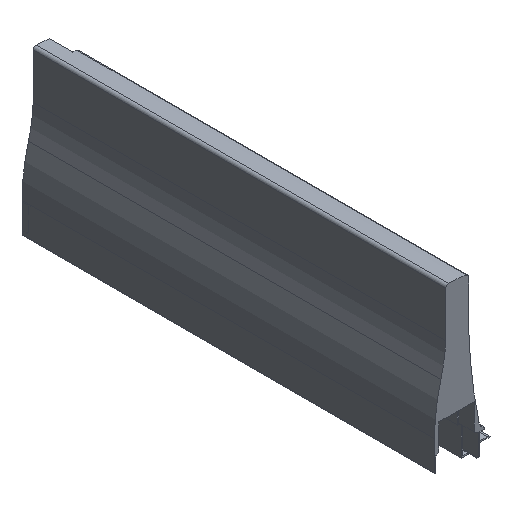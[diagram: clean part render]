
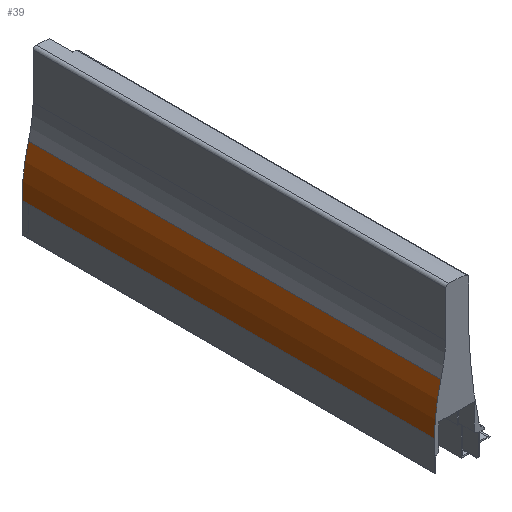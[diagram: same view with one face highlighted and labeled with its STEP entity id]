
A CAD part, isometric view. The second image highlights one B-rep face of the part: STEP entity #39.
In plain terms, the highlighted cylindrical face has radius 130.3 mm (diameter 260.6 mm), a partial arc.
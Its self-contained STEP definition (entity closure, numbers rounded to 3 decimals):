
#39 = ADVANCED_FACE ( 'NONE', ( #3536 ), #3540, .T. ) ;
#310 = CARTESIAN_POINT ( 'NONE',  ( 126.2, 290., -7.695 ) ) ;
#327 = DIRECTION ( 'NONE',  ( 0., -1., 0. ) ) ;
#328 = DIRECTION ( 'NONE',  ( 1., 0., 0. ) ) ;
#470 = CARTESIAN_POINT ( 'NONE',  ( 126.2, 0., -7.695 ) ) ;
#479 = DIRECTION ( 'NONE',  ( 0., -1., 0. ) ) ;
#480 = DIRECTION ( 'NONE',  ( 1., 0., 0. ) ) ;
#645 = CARTESIAN_POINT ( 'NONE',  ( -4.1, 0., -7.695 ) ) ;
#660 = CARTESIAN_POINT ( 'NONE',  ( 0.401, 0., 26.255 ) ) ;
#672 = CARTESIAN_POINT ( 'NONE',  ( 0.401, 290., 26.255 ) ) ;
#673 = CARTESIAN_POINT ( 'NONE',  ( -4.1, 290., -7.695 ) ) ;
#850 = EDGE_CURVE ( 'NONE', #1430, #1418, #3372, .T. ) ;
#866 = AXIS2_PLACEMENT_3D ( 'NONE', #1628, #1627, #1626 ) ;
#885 = EDGE_CURVE ( 'NONE', #1431, #1403, #3324, .T. ) ;
#944 = AXIS2_PLACEMENT_3D ( 'NONE', #470, #479, #480 ) ;
#1088 = EDGE_CURVE ( 'NONE', #1430, #1431, #3085, .T. ) ;
#1187 = EDGE_CURVE ( 'NONE', #1418, #1403, #2960, .T. ) ;
#1216 = AXIS2_PLACEMENT_3D ( 'NONE', #310, #327, #328 ) ;
#1403 = VERTEX_POINT ( 'NONE', #645 ) ;
#1418 = VERTEX_POINT ( 'NONE', #660 ) ;
#1430 = VERTEX_POINT ( 'NONE', #672 ) ;
#1431 = VERTEX_POINT ( 'NONE', #673 ) ;
#1626 = DIRECTION ( 'NONE',  ( -1., 0., 0. ) ) ;
#1627 = DIRECTION ( 'NONE',  ( 0., -1., 0. ) ) ;
#1628 = CARTESIAN_POINT ( 'NONE',  ( 126.2, 290., -7.695 ) ) ;
#1971 = DIRECTION ( 'NONE',  ( 0., -1., 0. ) ) ;
#2041 = CARTESIAN_POINT ( 'NONE',  ( -4.1, 290., -7.695 ) ) ;
#2042 = DIRECTION ( 'NONE',  ( 0., -1., 0. ) ) ;
#2145 = CARTESIAN_POINT ( 'NONE',  ( 0.401, 290., 26.255 ) ) ;
#2326 = EDGE_LOOP ( 'NONE', ( #2899, #2838, #2917, #2386 ) ) ;
#2386 = ORIENTED_EDGE ( 'NONE', *, *, #885, .T. ) ;
#2838 = ORIENTED_EDGE ( 'NONE', *, *, #850, .F. ) ;
#2899 = ORIENTED_EDGE ( 'NONE', *, *, #1187, .F. ) ;
#2917 = ORIENTED_EDGE ( 'NONE', *, *, #1088, .T. ) ;
#2960 = CIRCLE ( 'NONE', #944, 130.3 ) ;
#3085 = CIRCLE ( 'NONE', #1216, 130.3 ) ;
#3323 = VECTOR ( 'NONE', #2042, 1000. ) ;
#3324 = LINE ( 'NONE', #2041, #3323 ) ;
#3362 = VECTOR ( 'NONE', #1971, 1000. ) ;
#3372 = LINE ( 'NONE', #2145, #3362 ) ;
#3536 = FACE_OUTER_BOUND ( 'NONE', #2326, .T. ) ;
#3540 = CYLINDRICAL_SURFACE ( 'NONE', #866, 130.3 ) ;
